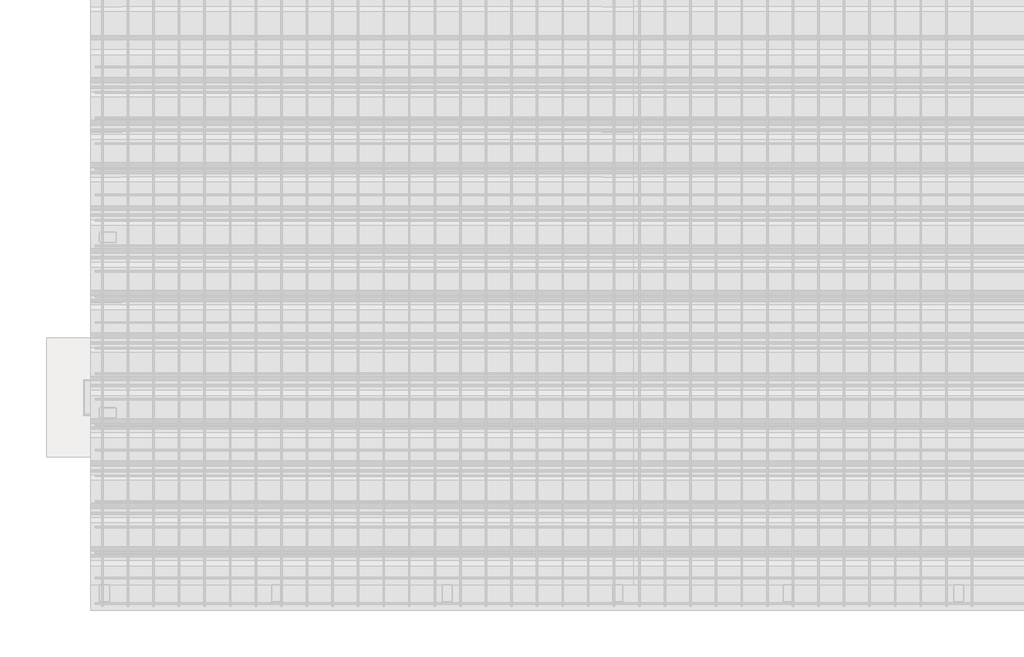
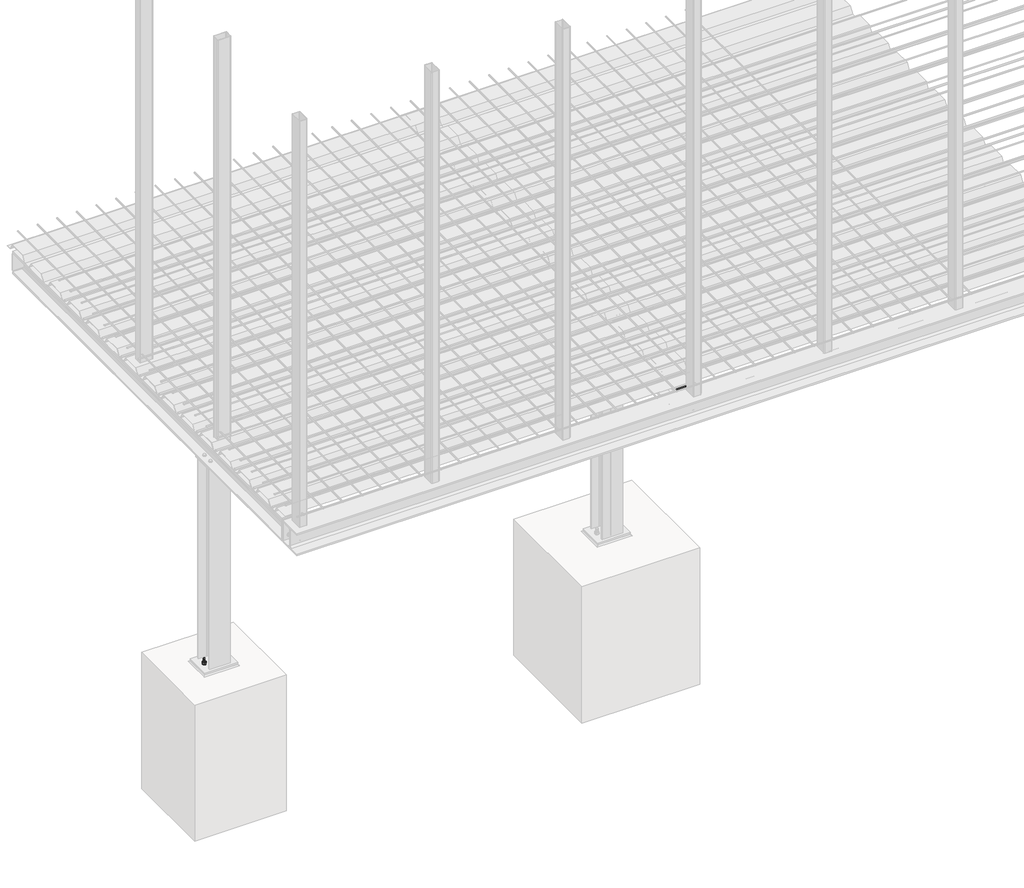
# One storey, part 7 of 36: 12 proxies.
"""IFC4 building model written with IfcOpenShell, lengths in millimetres."""

from ifc_helpers import new_model, si_unit, point, frame, frame_2d, origin, place, context, project, spatial, polyline, circle_curve, trimmed, segment, composite_curve, outline, extrude, element, save

model = new_model("IFC4")

# Units and contexts
model_context = context("Model", 3, world=origin())
ifc_project = project(units=[si_unit("LENGTHUNIT", "METRE", prefix="MILLI")], contexts=[model_context])

# Site, building, storey
site = spatial("IfcSite", under=ifc_project)
building = spatial("IfcBuilding", under=site)
storey = spatial("IfcBuildingStorey", under=building, Name="Základy", Elevation=-1200.0)

# Proxies
placement = place(None, origin())
element("IfcBuildingElementProxy", 1, Name="PLECH", ObjectType="PLECH", at=placement, inside=storey, context=model_context, shape_type="SweptSolid", body=[
    extrude(outline(polyline([(2940.0, 1200.0), (2940.0, 1320.0), (2950.0, 1320.0), (2950.0, 1200.0), (2940.0, 1200.0)])), frame((0.0, 0.0, -299.0), z_axis=(0.0, 0.0, 1.0), x_axis=(1.0, 0.0, 0.0)), (0.0, 0.0, 1.0), 98.0),
])
element("IfcBuildingElementProxy", 2, Name="PLECH", ObjectType="PLECH", at=placement, inside=storey, context=model_context, shape_type="SweptSolid", body=[
    extrude(outline(polyline([(3150.0, 1200.0), (3150.0, 1320.0), (3160.0, 1320.0), (3160.0, 1200.0), (3150.0, 1200.0)])), frame((0.0, 0.0, -299.0), z_axis=(0.0, 0.0, 1.0), x_axis=(1.0, 0.0, 0.0)), (0.0, 0.0, 1.0), 98.0),
])
element("IfcBuildingElementProxy", 3, Name="PLECH", ObjectType="PLECH", at=placement, inside=storey, context=model_context, shape_type="SweptSolid", body=[
    extrude(outline(polyline([(2950.0, 1200.0), (2950.0, 1320.0), (2960.0, 1320.0), (2960.0, 1200.0), (2950.0, 1200.0)])), frame((0.0, 0.0, -332.0), z_axis=(0.0, 0.0, 1.0), x_axis=(1.0, 0.0, 0.0)), (0.0, 0.0, 1.0), 164.0),
])
element("IfcBuildingElementProxy", 4, Name="PLECH", ObjectType="PLECH", at=placement, inside=storey, context=model_context, shape_type="SweptSolid", body=[
    extrude(outline(composite_curve([segment(polyline([(-174.0, 2960.0), (-326.0, 2960.0), (-326.0, 3020.5)]), True, "CONTINUOUS"), segment(trimmed(circle_curve(frame_2d((-326.0, 3045.5)), 25.0), [point((-326.0, 3020.5))], [point((-301.0, 3045.5))], True, "CARTESIAN"), True, "CONTINUOUS"), segment(polyline([(-301.0, 3045.5), (-199.0, 3045.5)]), True, "CONTINUOUS"), segment(trimmed(circle_curve(frame_2d((-174.0, 3045.5)), 25.0), [point((-199.0, 3045.5))], [point((-174.0, 3020.5))], True, "CARTESIAN"), True, "CONTINUOUS"), segment(polyline([(-174.0, 3020.5), (-174.0, 2960.0)]), True, "CONTINUOUS")], self_intersect=False)), frame((0.0, 1256.0, 0.0), z_axis=(0.0, 1.0, 0.0), x_axis=(0.0, 0.0, 1.0)), (0.0, 0.0, 1.0), 8.0),
])
element("IfcBuildingElementProxy", 5, Name="PLECH", ObjectType="PLECH", at=placement, inside=storey, context=model_context, shape_type="SweptSolid", body=[
    extrude(outline(polyline([(2960.0, 210.0), (3140.0, 210.0), (3140.0, 200.0), (2960.0, 200.0), (2960.0, 210.0)])), frame((0.0, 0.0, -332.0), z_axis=(0.0, 0.0, 1.0), x_axis=(1.0, 0.0, 0.0)), (0.0, 0.0, 1.0), 164.0),
])
element("IfcBuildingElementProxy", 6, Name="PLECH", ObjectType="PLECH", at=placement, inside=storey, context=model_context, shape_type="SweptSolid", body=[
    extrude(outline(polyline([(3140.0, 1200.0), (3140.0, 1320.0), (3150.0, 1320.0), (3150.0, 1200.0), (3140.0, 1200.0)])), frame((0.0, 0.0, -332.0), z_axis=(0.0, 0.0, 1.0), x_axis=(1.0, 0.0, 0.0)), (0.0, 0.0, 1.0), 164.0),
])
element("IfcBuildingElementProxy", 7, Name="PLECH", ObjectType="PLECH", at=placement, inside=storey, context=model_context, shape_type="SweptSolid", body=[
    extrude(outline(composite_curve([segment(polyline([(-174.0, 3140.0), (-174.0, 3079.5)]), True, "CONTINUOUS"), segment(trimmed(circle_curve(frame_2d((-174.0, 3054.5)), 25.0), [point((-174.0, 3079.5))], [point((-199.0, 3054.5))], True, "CARTESIAN"), True, "CONTINUOUS"), segment(polyline([(-199.0, 3054.5), (-301.0, 3054.5)]), True, "CONTINUOUS"), segment(trimmed(circle_curve(frame_2d((-326.0, 3054.5)), 25.0), [point((-301.0, 3054.5))], [point((-326.0, 3079.5))], True, "CARTESIAN"), True, "CONTINUOUS"), segment(polyline([(-326.0, 3079.5), (-326.0, 3140.0), (-174.0, 3140.0)]), True, "CONTINUOUS")], self_intersect=False)), frame((0.0, 1256.0, 0.0), z_axis=(0.0, 1.0, 0.0), x_axis=(0.0, 0.0, 1.0)), (0.0, 0.0, 1.0), 8.0),
])
element("IfcBuildingElementProxy", 8, Name="PLECH", ObjectType="PLECH", at=placement, inside=storey, context=model_context, shape_type="SweptSolid", body=[
    extrude(outline(composite_curve([segment(polyline([(190.0, -174.0), (190.0, -326.0), (124.25, -326.0)]), True, "CONTINUOUS"), segment(trimmed(circle_curve(frame_2d((104.25, -326.0)), 20.0), [point((124.25, -326.0))], [point((104.25, -306.0))], True, "CARTESIAN"), True, "CONTINUOUS"), segment(polyline([(104.25, -306.0), (104.25, -194.0)]), True, "CONTINUOUS"), segment(trimmed(circle_curve(frame_2d((104.25, -174.0)), 20.0), [point((104.25, -194.0))], [point((124.25, -174.0))], True, "CARTESIAN"), True, "CONTINUOUS"), segment(polyline([(124.25, -174.0), (190.0, -174.0)]), True, "CONTINUOUS")], self_intersect=False)), frame((3046.0, 0.0, 0.0), z_axis=(1.0, 0.0, 0.0), x_axis=(0.0, 1.0, 0.0)), (0.0, 0.0, 1.0), 8.0),
])
element("IfcBuildingElementProxy", 9, Name="PLECH", ObjectType="PLECH", at=placement, inside=storey, context=model_context, shape_type="SweptSolid", body=[
    extrude(outline(polyline([(2960.0, 200.0), (3140.0, 200.0), (3140.0, 190.0), (2960.0, 190.0), (2960.0, 200.0)])), frame((0.0, 0.0, -332.0), z_axis=(0.0, 0.0, 1.0), x_axis=(1.0, 0.0, 0.0)), (0.0, 0.0, 1.0), 164.0),
])
element("IfcBuildingElementProxy", 10, Name="Bolt assembly", ObjectType="Bolt assembly", at=placement, inside=storey, context=model_context, shape_type="SweptSolid", body=[
    extrude(outline(composite_curve([segment(trimmed(circle_curve(frame_2d((1230.0, -225.0)), 6.5), [point((1230.0, -231.5))], [point((1230.0, -218.5))], False, "CARTESIAN"), True, "CONTINUOUS"), segment(trimmed(circle_curve(frame_2d((1230.0, -225.0)), 6.5), [point((1230.0, -218.5))], [point((1230.0, -231.5))], False, "CARTESIAN"), True, "CONTINUOUS")], self_intersect=False)), frame((2949.9, 0.0, 0.0), z_axis=(1.0, 0.0, 0.0), x_axis=(0.0, 1.0, 0.0)), (0.0, 0.0, 1.0), 10.0),
    extrude(outline(polyline([(1230.0, -235.3923048), (1221.0, -230.1961524), (1221.0, -219.8038476), (1230.0, -214.6076952), (1239.0, -219.8038476), (1239.0, -230.1961524), (1230.0, -235.3923048)])), frame((2962.5, 0.0, 0.0), z_axis=(1.0, 0.0, 0.0), x_axis=(0.0, 1.0, 0.0)), (0.0, 0.0, 1.0), 7.5),
    extrude(outline(composite_curve([segment(trimmed(circle_curve(frame_2d((1230.0, -225.0)), 6.0), [point((1230.0, -231.0))], [point((1230.0, -219.0))], False, "CARTESIAN"), True, "CONTINUOUS"), segment(trimmed(circle_curve(frame_2d((1230.0, -225.0)), 6.0), [point((1230.0, -219.0))], [point((1230.0, -231.0))], False, "CARTESIAN"), True, "CONTINUOUS")], self_intersect=False)), frame((2922.5, 0.0, 0.0), z_axis=(1.0, 0.0, 0.0), x_axis=(0.0, 1.0, 0.0)), (0.0, 0.0, 1.0), 40.0),
    extrude(outline(composite_curve([segment(trimmed(circle_curve(frame_2d((1230.0, -225.0)), 12.0), [point((1230.0, -237.0))], [point((1230.0, -213.0))], False, "CARTESIAN"), True, "CONTINUOUS"), segment(trimmed(circle_curve(frame_2d((1230.0, -225.0)), 12.0), [point((1230.0, -213.0))], [point((1230.0, -237.0))], False, "CARTESIAN"), True, "CONTINUOUS")], self_intersect=False)), frame((2960.0, 0.0, 0.0), z_axis=(1.0, 0.0, 0.0), x_axis=(0.0, 1.0, 0.0)), (0.0, 0.0, 1.0), 2.5),
    extrude(outline(composite_curve([segment(trimmed(circle_curve(frame_2d((1230.0, -225.0)), 12.0), [point((1230.0, -237.0))], [point((1230.0, -213.0))], False, "CARTESIAN"), True, "CONTINUOUS"), segment(trimmed(circle_curve(frame_2d((1230.0, -225.0)), 12.0), [point((1230.0, -213.0))], [point((1230.0, -237.0))], False, "CARTESIAN"), True, "CONTINUOUS")], self_intersect=False)), frame((2937.5, 0.0, 0.0), z_axis=(1.0, 0.0, 0.0), x_axis=(0.0, 1.0, 0.0)), (0.0, 0.0, 1.0), 2.5),
    extrude(outline(polyline([(1230.0, -235.9696551), (1220.5, -230.4848276), (1220.5, -219.5151724), (1230.0, -214.0303449), (1239.5, -219.5151724), (1239.5, -230.4848276), (1230.0, -235.9696551)])), frame((2927.5, 0.0, 0.0), z_axis=(1.0, 0.0, 0.0), x_axis=(0.0, 1.0, 0.0)), (0.0, 0.0, 1.0), 10.0),
    extrude(outline(composite_curve([segment(trimmed(circle_curve(frame_2d((1230.0, -225.0)), 6.5), [point((1230.0, -231.5))], [point((1230.0, -218.5))], False, "CARTESIAN"), True, "CONTINUOUS"), segment(trimmed(circle_curve(frame_2d((1230.0, -225.0)), 6.5), [point((1230.0, -218.5))], [point((1230.0, -231.5))], False, "CARTESIAN"), True, "CONTINUOUS")], self_intersect=False)), frame((2940.0, 0.0, 0.0), z_axis=(1.0, 0.0, 0.0), x_axis=(0.0, 1.0, 0.0)), (0.0, 0.0, 1.0), 10.1),
    extrude(outline(composite_curve([segment(trimmed(circle_curve(frame_2d((1230.0, -275.0)), 6.5), [point((1230.0, -281.5))], [point((1230.0, -268.5))], False, "CARTESIAN"), True, "CONTINUOUS"), segment(trimmed(circle_curve(frame_2d((1230.0, -275.0)), 6.5), [point((1230.0, -268.5))], [point((1230.0, -281.5))], False, "CARTESIAN"), True, "CONTINUOUS")], self_intersect=False)), frame((2949.9, 0.0, 0.0), z_axis=(1.0, 0.0, 0.0), x_axis=(0.0, 1.0, 0.0)), (0.0, 0.0, 1.0), 10.0),
    extrude(outline(polyline([(1230.0, -285.3923048), (1221.0, -280.1961524), (1221.0, -269.8038476), (1230.0, -264.6076952), (1239.0, -269.8038476), (1239.0, -280.1961524), (1230.0, -285.3923048)])), frame((2962.5, 0.0, 0.0), z_axis=(1.0, 0.0, 0.0), x_axis=(0.0, 1.0, 0.0)), (0.0, 0.0, 1.0), 7.5),
    extrude(outline(composite_curve([segment(trimmed(circle_curve(frame_2d((1230.0, -275.0)), 6.0), [point((1230.0, -281.0))], [point((1230.0, -269.0))], False, "CARTESIAN"), True, "CONTINUOUS"), segment(trimmed(circle_curve(frame_2d((1230.0, -275.0)), 6.0), [point((1230.0, -269.0))], [point((1230.0, -281.0))], False, "CARTESIAN"), True, "CONTINUOUS")], self_intersect=False)), frame((2922.5, 0.0, 0.0), z_axis=(1.0, 0.0, 0.0), x_axis=(0.0, 1.0, 0.0)), (0.0, 0.0, 1.0), 40.0),
    extrude(outline(composite_curve([segment(trimmed(circle_curve(frame_2d((1230.0, -275.0)), 12.0), [point((1230.0, -287.0))], [point((1230.0, -263.0))], False, "CARTESIAN"), True, "CONTINUOUS"), segment(trimmed(circle_curve(frame_2d((1230.0, -275.0)), 12.0), [point((1230.0, -263.0))], [point((1230.0, -287.0))], False, "CARTESIAN"), True, "CONTINUOUS")], self_intersect=False)), frame((2960.0, 0.0, 0.0), z_axis=(1.0, 0.0, 0.0), x_axis=(0.0, 1.0, 0.0)), (0.0, 0.0, 1.0), 2.5),
    extrude(outline(composite_curve([segment(trimmed(circle_curve(frame_2d((1230.0, -275.0)), 12.0), [point((1230.0, -287.0))], [point((1230.0, -263.0))], False, "CARTESIAN"), True, "CONTINUOUS"), segment(trimmed(circle_curve(frame_2d((1230.0, -275.0)), 12.0), [point((1230.0, -263.0))], [point((1230.0, -287.0))], False, "CARTESIAN"), True, "CONTINUOUS")], self_intersect=False)), frame((2937.5, 0.0, 0.0), z_axis=(1.0, 0.0, 0.0), x_axis=(0.0, 1.0, 0.0)), (0.0, 0.0, 1.0), 2.5),
    extrude(outline(polyline([(1230.0, -285.9696551), (1220.5, -280.4848276), (1220.5, -269.5151724), (1230.0, -264.0303449), (1239.5, -269.5151724), (1239.5, -280.4848276), (1230.0, -285.9696551)])), frame((2927.5, 0.0, 0.0), z_axis=(1.0, 0.0, 0.0), x_axis=(0.0, 1.0, 0.0)), (0.0, 0.0, 1.0), 10.0),
    extrude(outline(composite_curve([segment(trimmed(circle_curve(frame_2d((1230.0, -275.0)), 6.5), [point((1230.0, -281.5))], [point((1230.0, -268.5))], False, "CARTESIAN"), True, "CONTINUOUS"), segment(trimmed(circle_curve(frame_2d((1230.0, -275.0)), 6.5), [point((1230.0, -268.5))], [point((1230.0, -281.5))], False, "CARTESIAN"), True, "CONTINUOUS")], self_intersect=False)), frame((2940.0, 0.0, 0.0), z_axis=(1.0, 0.0, 0.0), x_axis=(0.0, 1.0, 0.0)), (0.0, 0.0, 1.0), 10.1),
    extrude(outline(composite_curve([segment(trimmed(circle_curve(frame_2d((1290.0, -225.0)), 6.5), [point((1290.0, -231.5))], [point((1290.0, -218.5))], False, "CARTESIAN"), True, "CONTINUOUS"), segment(trimmed(circle_curve(frame_2d((1290.0, -225.0)), 6.5), [point((1290.0, -218.5))], [point((1290.0, -231.5))], False, "CARTESIAN"), True, "CONTINUOUS")], self_intersect=False)), frame((2949.9, 0.0, 0.0), z_axis=(1.0, 0.0, 0.0), x_axis=(0.0, 1.0, 0.0)), (0.0, 0.0, 1.0), 10.0),
    extrude(outline(polyline([(1290.0, -235.3923048), (1281.0, -230.1961524), (1281.0, -219.8038476), (1290.0, -214.6076952), (1299.0, -219.8038476), (1299.0, -230.1961524), (1290.0, -235.3923048)])), frame((2962.5, 0.0, 0.0), z_axis=(1.0, 0.0, 0.0), x_axis=(0.0, 1.0, 0.0)), (0.0, 0.0, 1.0), 7.5),
    extrude(outline(composite_curve([segment(trimmed(circle_curve(frame_2d((1290.0, -225.0)), 6.0), [point((1290.0, -231.0))], [point((1290.0, -219.0))], False, "CARTESIAN"), True, "CONTINUOUS"), segment(trimmed(circle_curve(frame_2d((1290.0, -225.0)), 6.0), [point((1290.0, -219.0))], [point((1290.0, -231.0))], False, "CARTESIAN"), True, "CONTINUOUS")], self_intersect=False)), frame((2922.5, 0.0, 0.0), z_axis=(1.0, 0.0, 0.0), x_axis=(0.0, 1.0, 0.0)), (0.0, 0.0, 1.0), 40.0),
    extrude(outline(composite_curve([segment(trimmed(circle_curve(frame_2d((1290.0, -225.0)), 12.0), [point((1290.0, -237.0))], [point((1290.0, -213.0))], False, "CARTESIAN"), True, "CONTINUOUS"), segment(trimmed(circle_curve(frame_2d((1290.0, -225.0)), 12.0), [point((1290.0, -213.0))], [point((1290.0, -237.0))], False, "CARTESIAN"), True, "CONTINUOUS")], self_intersect=False)), frame((2960.0, 0.0, 0.0), z_axis=(1.0, 0.0, 0.0), x_axis=(0.0, 1.0, 0.0)), (0.0, 0.0, 1.0), 2.5),
    extrude(outline(composite_curve([segment(trimmed(circle_curve(frame_2d((1290.0, -225.0)), 12.0), [point((1290.0, -237.0))], [point((1290.0, -213.0))], False, "CARTESIAN"), True, "CONTINUOUS"), segment(trimmed(circle_curve(frame_2d((1290.0, -225.0)), 12.0), [point((1290.0, -213.0))], [point((1290.0, -237.0))], False, "CARTESIAN"), True, "CONTINUOUS")], self_intersect=False)), frame((2937.5, 0.0, 0.0), z_axis=(1.0, 0.0, 0.0), x_axis=(0.0, 1.0, 0.0)), (0.0, 0.0, 1.0), 2.5),
    extrude(outline(polyline([(1290.0, -235.9696551), (1280.5, -230.4848276), (1280.5, -219.5151724), (1290.0, -214.0303449), (1299.5, -219.5151724), (1299.5, -230.4848276), (1290.0, -235.9696551)])), frame((2927.5, 0.0, 0.0), z_axis=(1.0, 0.0, 0.0), x_axis=(0.0, 1.0, 0.0)), (0.0, 0.0, 1.0), 10.0),
    extrude(outline(composite_curve([segment(trimmed(circle_curve(frame_2d((1290.0, -225.0)), 6.5), [point((1290.0, -231.5))], [point((1290.0, -218.5))], False, "CARTESIAN"), True, "CONTINUOUS"), segment(trimmed(circle_curve(frame_2d((1290.0, -225.0)), 6.5), [point((1290.0, -218.5))], [point((1290.0, -231.5))], False, "CARTESIAN"), True, "CONTINUOUS")], self_intersect=False)), frame((2940.0, 0.0, 0.0), z_axis=(1.0, 0.0, 0.0), x_axis=(0.0, 1.0, 0.0)), (0.0, 0.0, 1.0), 10.1),
    extrude(outline(composite_curve([segment(trimmed(circle_curve(frame_2d((1290.0, -275.0)), 6.5), [point((1290.0, -281.5))], [point((1290.0, -268.5))], False, "CARTESIAN"), True, "CONTINUOUS"), segment(trimmed(circle_curve(frame_2d((1290.0, -275.0)), 6.5), [point((1290.0, -268.5))], [point((1290.0, -281.5))], False, "CARTESIAN"), True, "CONTINUOUS")], self_intersect=False)), frame((2949.9, 0.0, 0.0), z_axis=(1.0, 0.0, 0.0), x_axis=(0.0, 1.0, 0.0)), (0.0, 0.0, 1.0), 10.0),
    extrude(outline(polyline([(1290.0, -285.3923048), (1281.0, -280.1961524), (1281.0, -269.8038476), (1290.0, -264.6076952), (1299.0, -269.8038476), (1299.0, -280.1961524), (1290.0, -285.3923048)])), frame((2962.5, 0.0, 0.0), z_axis=(1.0, 0.0, 0.0), x_axis=(0.0, 1.0, 0.0)), (0.0, 0.0, 1.0), 7.5),
    extrude(outline(composite_curve([segment(trimmed(circle_curve(frame_2d((1290.0, -275.0)), 6.0), [point((1290.0, -281.0))], [point((1290.0, -269.0))], False, "CARTESIAN"), True, "CONTINUOUS"), segment(trimmed(circle_curve(frame_2d((1290.0, -275.0)), 6.0), [point((1290.0, -269.0))], [point((1290.0, -281.0))], False, "CARTESIAN"), True, "CONTINUOUS")], self_intersect=False)), frame((2922.5, 0.0, 0.0), z_axis=(1.0, 0.0, 0.0), x_axis=(0.0, 1.0, 0.0)), (0.0, 0.0, 1.0), 40.0),
    extrude(outline(composite_curve([segment(trimmed(circle_curve(frame_2d((1290.0, -275.0)), 12.0), [point((1290.0, -287.0))], [point((1290.0, -263.0))], False, "CARTESIAN"), True, "CONTINUOUS"), segment(trimmed(circle_curve(frame_2d((1290.0, -275.0)), 12.0), [point((1290.0, -263.0))], [point((1290.0, -287.0))], False, "CARTESIAN"), True, "CONTINUOUS")], self_intersect=False)), frame((2960.0, 0.0, 0.0), z_axis=(1.0, 0.0, 0.0), x_axis=(0.0, 1.0, 0.0)), (0.0, 0.0, 1.0), 2.5),
    extrude(outline(composite_curve([segment(trimmed(circle_curve(frame_2d((1290.0, -275.0)), 12.0), [point((1290.0, -287.0))], [point((1290.0, -263.0))], False, "CARTESIAN"), True, "CONTINUOUS"), segment(trimmed(circle_curve(frame_2d((1290.0, -275.0)), 12.0), [point((1290.0, -263.0))], [point((1290.0, -287.0))], False, "CARTESIAN"), True, "CONTINUOUS")], self_intersect=False)), frame((2937.5, 0.0, 0.0), z_axis=(1.0, 0.0, 0.0), x_axis=(0.0, 1.0, 0.0)), (0.0, 0.0, 1.0), 2.5),
    extrude(outline(polyline([(1290.0, -285.9696551), (1280.5, -280.4848276), (1280.5, -269.5151724), (1290.0, -264.0303449), (1299.5, -269.5151724), (1299.5, -280.4848276), (1290.0, -285.9696551)])), frame((2927.5, 0.0, 0.0), z_axis=(1.0, 0.0, 0.0), x_axis=(0.0, 1.0, 0.0)), (0.0, 0.0, 1.0), 10.0),
    extrude(outline(composite_curve([segment(trimmed(circle_curve(frame_2d((1290.0, -275.0)), 6.5), [point((1290.0, -281.5))], [point((1290.0, -268.5))], False, "CARTESIAN"), True, "CONTINUOUS"), segment(trimmed(circle_curve(frame_2d((1290.0, -275.0)), 6.5), [point((1290.0, -268.5))], [point((1290.0, -281.5))], False, "CARTESIAN"), True, "CONTINUOUS")], self_intersect=False)), frame((2940.0, 0.0, 0.0), z_axis=(1.0, 0.0, 0.0), x_axis=(0.0, 1.0, 0.0)), (0.0, 0.0, 1.0), 10.1),
])
element("IfcBuildingElementProxy", 11, Name="Bolt assembly", ObjectType="Bolt assembly", at=placement, inside=storey, context=model_context, shape_type="SweptSolid", body=[
    extrude(outline(composite_curve([segment(trimmed(circle_curve(frame_2d((-290.0, 3005.0)), 9.0), [point((-290.0, 3014.0))], [point((-290.0, 2996.0))], False, "CARTESIAN"), True, "CONTINUOUS"), segment(trimmed(circle_curve(frame_2d((-290.0, 3005.0)), 9.0), [point((-290.0, 2996.0))], [point((-290.0, 3014.0))], False, "CARTESIAN"), True, "CONTINUOUS")], self_intersect=False)), frame((0.0, 190.1, 0.0), z_axis=(0.0, 1.0, 0.0), x_axis=(0.0, 0.0, 1.0)), (0.0, 0.0, 1.0), 10.0),
    extrude(outline(polyline([(-290.0, 3018.8564065), (-278.0, 3011.9282032), (-278.0, 2998.0717968), (-290.0, 2991.1435935), (-302.0, 2998.0717968), (-302.0, 3011.9282032), (-290.0, 3018.8564065)])), frame((0.0, 177.0, 0.0), z_axis=(0.0, 1.0, 0.0), x_axis=(0.0, 0.0, 1.0)), (0.0, 0.0, 1.0), 10.0),
    extrude(outline(composite_curve([segment(trimmed(circle_curve(frame_2d((-290.0, 3005.0)), 8.0), [point((-290.0, 3013.0))], [point((-290.0, 2997.0))], False, "CARTESIAN"), True, "CONTINUOUS"), segment(trimmed(circle_curve(frame_2d((-290.0, 3005.0)), 8.0), [point((-290.0, 2997.0))], [point((-290.0, 3013.0))], False, "CARTESIAN"), True, "CONTINUOUS")], self_intersect=False)), frame((0.0, 187.0, 0.0), z_axis=(0.0, 1.0, 0.0), x_axis=(0.0, 0.0, 1.0)), (0.0, 0.0, 1.0), 50.0),
    extrude(outline(composite_curve([segment(trimmed(circle_curve(frame_2d((-290.0, 3005.0)), 15.0), [point((-290.0, 3020.0))], [point((-290.0, 2990.0))], False, "CARTESIAN"), True, "CONTINUOUS"), segment(trimmed(circle_curve(frame_2d((-290.0, 3005.0)), 15.0), [point((-290.0, 2990.0))], [point((-290.0, 3020.0))], False, "CARTESIAN"), True, "CONTINUOUS")], self_intersect=False)), frame((0.0, 187.0, 0.0), z_axis=(0.0, 1.0, 0.0), x_axis=(0.0, 0.0, 1.0)), (0.0, 0.0, 1.0), 3.0),
    extrude(outline(composite_curve([segment(trimmed(circle_curve(frame_2d((-290.0, 3005.0)), 15.0), [point((-290.0, 3020.0))], [point((-290.0, 2990.0))], False, "CARTESIAN"), True, "CONTINUOUS"), segment(trimmed(circle_curve(frame_2d((-290.0, 3005.0)), 15.0), [point((-290.0, 2990.0))], [point((-290.0, 3020.0))], False, "CARTESIAN"), True, "CONTINUOUS")], self_intersect=False)), frame((0.0, 210.0, 0.0), z_axis=(0.0, 1.0, 0.0), x_axis=(0.0, 0.0, 1.0)), (0.0, 0.0, 1.0), 3.0),
    extrude(outline(polyline([(-290.0, 3020.4441197), (-276.625, 3012.7220599), (-276.625, 2997.2779401), (-290.0, 2989.5558803), (-303.375, 2997.2779401), (-303.375, 3012.7220599), (-290.0, 3020.4441197)])), frame((0.0, 213.0, 0.0), z_axis=(0.0, 1.0, 0.0), x_axis=(0.0, 0.0, 1.0)), (0.0, 0.0, 1.0), 13.0),
    extrude(outline(composite_curve([segment(trimmed(circle_curve(frame_2d((-290.0, 3005.0)), 9.0), [point((-290.0, 3014.0))], [point((-290.0, 2996.0))], False, "CARTESIAN"), True, "CONTINUOUS"), segment(trimmed(circle_curve(frame_2d((-290.0, 3005.0)), 9.0), [point((-290.0, 2996.0))], [point((-290.0, 3014.0))], False, "CARTESIAN"), True, "CONTINUOUS")], self_intersect=False)), frame((0.0, 199.9, 0.0), z_axis=(0.0, 1.0, 0.0), x_axis=(0.0, 0.0, 1.0)), (0.0, 0.0, 1.0), 10.1),
    extrude(outline(composite_curve([segment(trimmed(circle_curve(frame_2d((-290.0, 3095.0)), 9.0), [point((-290.0, 3104.0))], [point((-290.0, 3086.0))], False, "CARTESIAN"), True, "CONTINUOUS"), segment(trimmed(circle_curve(frame_2d((-290.0, 3095.0)), 9.0), [point((-290.0, 3086.0))], [point((-290.0, 3104.0))], False, "CARTESIAN"), True, "CONTINUOUS")], self_intersect=False)), frame((0.0, 190.1, 0.0), z_axis=(0.0, 1.0, 0.0), x_axis=(0.0, 0.0, 1.0)), (0.0, 0.0, 1.0), 10.0),
    extrude(outline(polyline([(-290.0, 3108.8564065), (-278.0, 3101.9282032), (-278.0, 3088.0717968), (-290.0, 3081.1435935), (-302.0, 3088.0717968), (-302.0, 3101.9282032), (-290.0, 3108.8564065)])), frame((0.0, 177.0, 0.0), z_axis=(0.0, 1.0, 0.0), x_axis=(0.0, 0.0, 1.0)), (0.0, 0.0, 1.0), 10.0),
    extrude(outline(composite_curve([segment(trimmed(circle_curve(frame_2d((-290.0, 3095.0)), 8.0), [point((-290.0, 3103.0))], [point((-290.0, 3087.0))], False, "CARTESIAN"), True, "CONTINUOUS"), segment(trimmed(circle_curve(frame_2d((-290.0, 3095.0)), 8.0), [point((-290.0, 3087.0))], [point((-290.0, 3103.0))], False, "CARTESIAN"), True, "CONTINUOUS")], self_intersect=False)), frame((0.0, 187.0, 0.0), z_axis=(0.0, 1.0, 0.0), x_axis=(0.0, 0.0, 1.0)), (0.0, 0.0, 1.0), 50.0),
    extrude(outline(composite_curve([segment(trimmed(circle_curve(frame_2d((-290.0, 3095.0)), 15.0), [point((-290.0, 3110.0))], [point((-290.0, 3080.0))], False, "CARTESIAN"), True, "CONTINUOUS"), segment(trimmed(circle_curve(frame_2d((-290.0, 3095.0)), 15.0), [point((-290.0, 3080.0))], [point((-290.0, 3110.0))], False, "CARTESIAN"), True, "CONTINUOUS")], self_intersect=False)), frame((0.0, 187.0, 0.0), z_axis=(0.0, 1.0, 0.0), x_axis=(0.0, 0.0, 1.0)), (0.0, 0.0, 1.0), 3.0),
    extrude(outline(composite_curve([segment(trimmed(circle_curve(frame_2d((-290.0, 3095.0)), 15.0), [point((-290.0, 3110.0))], [point((-290.0, 3080.0))], False, "CARTESIAN"), True, "CONTINUOUS"), segment(trimmed(circle_curve(frame_2d((-290.0, 3095.0)), 15.0), [point((-290.0, 3080.0))], [point((-290.0, 3110.0))], False, "CARTESIAN"), True, "CONTINUOUS")], self_intersect=False)), frame((0.0, 210.0, 0.0), z_axis=(0.0, 1.0, 0.0), x_axis=(0.0, 0.0, 1.0)), (0.0, 0.0, 1.0), 3.0),
    extrude(outline(polyline([(-290.0, 3110.4441197), (-276.625, 3102.7220599), (-276.625, 3087.2779401), (-290.0, 3079.5558803), (-303.375, 3087.2779401), (-303.375, 3102.7220599), (-290.0, 3110.4441197)])), frame((0.0, 213.0, 0.0), z_axis=(0.0, 1.0, 0.0), x_axis=(0.0, 0.0, 1.0)), (0.0, 0.0, 1.0), 13.0),
    extrude(outline(composite_curve([segment(trimmed(circle_curve(frame_2d((-290.0, 3095.0)), 9.0), [point((-290.0, 3104.0))], [point((-290.0, 3086.0))], False, "CARTESIAN"), True, "CONTINUOUS"), segment(trimmed(circle_curve(frame_2d((-290.0, 3095.0)), 9.0), [point((-290.0, 3086.0))], [point((-290.0, 3104.0))], False, "CARTESIAN"), True, "CONTINUOUS")], self_intersect=False)), frame((0.0, 199.9, 0.0), z_axis=(0.0, 1.0, 0.0), x_axis=(0.0, 0.0, 1.0)), (0.0, 0.0, 1.0), 10.1),
    extrude(outline(composite_curve([segment(trimmed(circle_curve(frame_2d((-210.0, 3005.0)), 9.0), [point((-210.0, 3014.0))], [point((-210.0, 2996.0))], False, "CARTESIAN"), True, "CONTINUOUS"), segment(trimmed(circle_curve(frame_2d((-210.0, 3005.0)), 9.0), [point((-210.0, 2996.0))], [point((-210.0, 3014.0))], False, "CARTESIAN"), True, "CONTINUOUS")], self_intersect=False)), frame((0.0, 190.1, 0.0), z_axis=(0.0, 1.0, 0.0), x_axis=(0.0, 0.0, 1.0)), (0.0, 0.0, 1.0), 10.0),
    extrude(outline(polyline([(-210.0, 3018.8564065), (-198.0, 3011.9282032), (-198.0, 2998.0717968), (-210.0, 2991.1435935), (-222.0, 2998.0717968), (-222.0, 3011.9282032), (-210.0, 3018.8564065)])), frame((0.0, 177.0, 0.0), z_axis=(0.0, 1.0, 0.0), x_axis=(0.0, 0.0, 1.0)), (0.0, 0.0, 1.0), 10.0),
    extrude(outline(composite_curve([segment(trimmed(circle_curve(frame_2d((-210.0, 3005.0)), 8.0), [point((-210.0, 3013.0))], [point((-210.0, 2997.0))], False, "CARTESIAN"), True, "CONTINUOUS"), segment(trimmed(circle_curve(frame_2d((-210.0, 3005.0)), 8.0), [point((-210.0, 2997.0))], [point((-210.0, 3013.0))], False, "CARTESIAN"), True, "CONTINUOUS")], self_intersect=False)), frame((0.0, 187.0, 0.0), z_axis=(0.0, 1.0, 0.0), x_axis=(0.0, 0.0, 1.0)), (0.0, 0.0, 1.0), 50.0),
    extrude(outline(composite_curve([segment(trimmed(circle_curve(frame_2d((-210.0, 3005.0)), 15.0), [point((-210.0, 3020.0))], [point((-210.0, 2990.0))], False, "CARTESIAN"), True, "CONTINUOUS"), segment(trimmed(circle_curve(frame_2d((-210.0, 3005.0)), 15.0), [point((-210.0, 2990.0))], [point((-210.0, 3020.0))], False, "CARTESIAN"), True, "CONTINUOUS")], self_intersect=False)), frame((0.0, 187.0, 0.0), z_axis=(0.0, 1.0, 0.0), x_axis=(0.0, 0.0, 1.0)), (0.0, 0.0, 1.0), 3.0),
    extrude(outline(composite_curve([segment(trimmed(circle_curve(frame_2d((-210.0, 3005.0)), 15.0), [point((-210.0, 3020.0))], [point((-210.0, 2990.0))], False, "CARTESIAN"), True, "CONTINUOUS"), segment(trimmed(circle_curve(frame_2d((-210.0, 3005.0)), 15.0), [point((-210.0, 2990.0))], [point((-210.0, 3020.0))], False, "CARTESIAN"), True, "CONTINUOUS")], self_intersect=False)), frame((0.0, 210.0, 0.0), z_axis=(0.0, 1.0, 0.0), x_axis=(0.0, 0.0, 1.0)), (0.0, 0.0, 1.0), 3.0),
    extrude(outline(polyline([(-210.0, 3020.4441197), (-196.625, 3012.7220599), (-196.625, 2997.2779401), (-210.0, 2989.5558803), (-223.375, 2997.2779401), (-223.375, 3012.7220599), (-210.0, 3020.4441197)])), frame((0.0, 213.0, 0.0), z_axis=(0.0, 1.0, 0.0), x_axis=(0.0, 0.0, 1.0)), (0.0, 0.0, 1.0), 13.0),
    extrude(outline(composite_curve([segment(trimmed(circle_curve(frame_2d((-210.0, 3005.0)), 9.0), [point((-210.0, 3014.0))], [point((-210.0, 2996.0))], False, "CARTESIAN"), True, "CONTINUOUS"), segment(trimmed(circle_curve(frame_2d((-210.0, 3005.0)), 9.0), [point((-210.0, 2996.0))], [point((-210.0, 3014.0))], False, "CARTESIAN"), True, "CONTINUOUS")], self_intersect=False)), frame((0.0, 199.9, 0.0), z_axis=(0.0, 1.0, 0.0), x_axis=(0.0, 0.0, 1.0)), (0.0, 0.0, 1.0), 10.1),
    extrude(outline(composite_curve([segment(trimmed(circle_curve(frame_2d((-210.0, 3095.0)), 9.0), [point((-210.0, 3104.0))], [point((-210.0, 3086.0))], False, "CARTESIAN"), True, "CONTINUOUS"), segment(trimmed(circle_curve(frame_2d((-210.0, 3095.0)), 9.0), [point((-210.0, 3086.0))], [point((-210.0, 3104.0))], False, "CARTESIAN"), True, "CONTINUOUS")], self_intersect=False)), frame((0.0, 190.1, 0.0), z_axis=(0.0, 1.0, 0.0), x_axis=(0.0, 0.0, 1.0)), (0.0, 0.0, 1.0), 10.0),
    extrude(outline(polyline([(-210.0, 3108.8564065), (-198.0, 3101.9282032), (-198.0, 3088.0717968), (-210.0, 3081.1435935), (-222.0, 3088.0717968), (-222.0, 3101.9282032), (-210.0, 3108.8564065)])), frame((0.0, 177.0, 0.0), z_axis=(0.0, 1.0, 0.0), x_axis=(0.0, 0.0, 1.0)), (0.0, 0.0, 1.0), 10.0),
    extrude(outline(composite_curve([segment(trimmed(circle_curve(frame_2d((-210.0, 3095.0)), 8.0), [point((-210.0, 3103.0))], [point((-210.0, 3087.0))], False, "CARTESIAN"), True, "CONTINUOUS"), segment(trimmed(circle_curve(frame_2d((-210.0, 3095.0)), 8.0), [point((-210.0, 3087.0))], [point((-210.0, 3103.0))], False, "CARTESIAN"), True, "CONTINUOUS")], self_intersect=False)), frame((0.0, 187.0, 0.0), z_axis=(0.0, 1.0, 0.0), x_axis=(0.0, 0.0, 1.0)), (0.0, 0.0, 1.0), 50.0),
    extrude(outline(composite_curve([segment(trimmed(circle_curve(frame_2d((-210.0, 3095.0)), 15.0), [point((-210.0, 3110.0))], [point((-210.0, 3080.0))], False, "CARTESIAN"), True, "CONTINUOUS"), segment(trimmed(circle_curve(frame_2d((-210.0, 3095.0)), 15.0), [point((-210.0, 3080.0))], [point((-210.0, 3110.0))], False, "CARTESIAN"), True, "CONTINUOUS")], self_intersect=False)), frame((0.0, 187.0, 0.0), z_axis=(0.0, 1.0, 0.0), x_axis=(0.0, 0.0, 1.0)), (0.0, 0.0, 1.0), 3.0),
    extrude(outline(composite_curve([segment(trimmed(circle_curve(frame_2d((-210.0, 3095.0)), 15.0), [point((-210.0, 3110.0))], [point((-210.0, 3080.0))], False, "CARTESIAN"), True, "CONTINUOUS"), segment(trimmed(circle_curve(frame_2d((-210.0, 3095.0)), 15.0), [point((-210.0, 3080.0))], [point((-210.0, 3110.0))], False, "CARTESIAN"), True, "CONTINUOUS")], self_intersect=False)), frame((0.0, 210.0, 0.0), z_axis=(0.0, 1.0, 0.0), x_axis=(0.0, 0.0, 1.0)), (0.0, 0.0, 1.0), 3.0),
    extrude(outline(polyline([(-210.0, 3110.4441197), (-196.625, 3102.7220599), (-196.625, 3087.2779401), (-210.0, 3079.5558803), (-223.375, 3087.2779401), (-223.375, 3102.7220599), (-210.0, 3110.4441197)])), frame((0.0, 213.0, 0.0), z_axis=(0.0, 1.0, 0.0), x_axis=(0.0, 0.0, 1.0)), (0.0, 0.0, 1.0), 13.0),
    extrude(outline(composite_curve([segment(trimmed(circle_curve(frame_2d((-210.0, 3095.0)), 9.0), [point((-210.0, 3104.0))], [point((-210.0, 3086.0))], False, "CARTESIAN"), True, "CONTINUOUS"), segment(trimmed(circle_curve(frame_2d((-210.0, 3095.0)), 9.0), [point((-210.0, 3086.0))], [point((-210.0, 3104.0))], False, "CARTESIAN"), True, "CONTINUOUS")], self_intersect=False)), frame((0.0, 199.9, 0.0), z_axis=(0.0, 1.0, 0.0), x_axis=(0.0, 0.0, 1.0)), (0.0, 0.0, 1.0), 10.1),
])
element("IfcBuildingElementProxy", 12, Name="Bolt assembly", ObjectType="Bolt assembly", at=placement, inside=storey, context=model_context, shape_type="SweptSolid", body=[
    extrude(outline(polyline([(-17.2635066, 1260.0), (-21.1317533, 1253.3000002), (-28.8682467, 1253.3000002), (-32.7364934, 1260.0), (-28.8682467, 1266.6999998), (-21.1317533, 1266.6999998), (-17.2635066, 1260.0)])), frame((0.0, 0.0, -2122.0), z_axis=(0.0, 0.0, 1.0), x_axis=(1.0, 0.0, 0.0)), (0.0, 0.0, 1.0), 132.0),
    extrude(outline(composite_curve([segment(trimmed(circle_curve(frame_2d((-25.0, 1260.0)), 8.0), [point((-17.0, 1260.0))], [point((-33.0, 1260.0))], False, "CARTESIAN"), True, "CONTINUOUS"), segment(trimmed(circle_curve(frame_2d((-25.0, 1260.0)), 8.0), [point((-33.0, 1260.0))], [point((-17.0, 1260.0))], False, "CARTESIAN"), True, "CONTINUOUS")], self_intersect=False)), frame((0.0, 0.0, -1990.0), z_axis=(0.0, 0.0, 1.0), x_axis=(1.0, 0.0, 0.0)), (0.0, 0.0, 1.0), 58.0),
    extrude(outline(composite_curve([segment(trimmed(circle_curve(frame_2d((-25.0, 1260.0)), 15.0), [point((-10.0, 1260.0))], [point((-40.0, 1260.0))], False, "CARTESIAN"), True, "CONTINUOUS"), segment(trimmed(circle_curve(frame_2d((-25.0, 1260.0)), 15.0), [point((-40.0, 1260.0))], [point((-10.0, 1260.0))], False, "CARTESIAN"), True, "CONTINUOUS")], self_intersect=False)), frame((0.0, 0.0, -1975.0), z_axis=(0.0, 0.0, 1.0), x_axis=(1.0, 0.0, 0.0)), (0.0, 0.0, 1.0), 3.0),
    extrude(outline(polyline([(-9.5558803, 1260.0), (-17.2779401, 1246.625), (-32.7220599, 1246.625), (-40.4441197, 1260.0), (-32.7220599, 1273.375), (-17.2779401, 1273.375), (-9.5558803, 1260.0)])), frame((0.0, 0.0, -1972.0), z_axis=(0.0, 0.0, 1.0), x_axis=(1.0, 0.0, 0.0)), (0.0, 0.0, 1.0), 13.0),
    extrude(outline(composite_curve([segment(trimmed(circle_curve(frame_2d((-25.0, 1260.0)), 9.0), [point((-16.0, 1260.0))], [point((-34.0, 1260.0))], False, "CARTESIAN"), True, "CONTINUOUS"), segment(trimmed(circle_curve(frame_2d((-25.0, 1260.0)), 9.0), [point((-34.0, 1260.0))], [point((-16.0, 1260.0))], False, "CARTESIAN"), True, "CONTINUOUS")], self_intersect=False)), frame((0.0, 0.0, -1990.0), z_axis=(0.0, 0.0, 1.0), x_axis=(1.0, 0.0, 0.0)), (0.0, 0.0, 1.0), 15.1),
    extrude(outline(polyline([(132.7364934, 1260.0), (128.8682467, 1253.3000002), (121.1317533, 1253.3000002), (117.2635066, 1260.0), (121.1317533, 1266.6999998), (128.8682467, 1266.6999998), (132.7364934, 1260.0)])), frame((0.0, 0.0, -2122.0), z_axis=(0.0, 0.0, 1.0), x_axis=(1.0, 0.0, 0.0)), (0.0, 0.0, 1.0), 132.0),
    extrude(outline(composite_curve([segment(trimmed(circle_curve(frame_2d((125.0, 1260.0)), 8.0), [point((133.0, 1260.0))], [point((117.0, 1260.0))], False, "CARTESIAN"), True, "CONTINUOUS"), segment(trimmed(circle_curve(frame_2d((125.0, 1260.0)), 8.0), [point((117.0, 1260.0))], [point((133.0, 1260.0))], False, "CARTESIAN"), True, "CONTINUOUS")], self_intersect=False)), frame((0.0, 0.0, -1990.0), z_axis=(0.0, 0.0, 1.0), x_axis=(1.0, 0.0, 0.0)), (0.0, 0.0, 1.0), 58.0),
    extrude(outline(composite_curve([segment(trimmed(circle_curve(frame_2d((125.0, 1260.0)), 15.0), [point((140.0, 1260.0))], [point((110.0, 1260.0))], False, "CARTESIAN"), True, "CONTINUOUS"), segment(trimmed(circle_curve(frame_2d((125.0, 1260.0)), 15.0), [point((110.0, 1260.0))], [point((140.0, 1260.0))], False, "CARTESIAN"), True, "CONTINUOUS")], self_intersect=False)), frame((0.0, 0.0, -1975.0), z_axis=(0.0, 0.0, 1.0), x_axis=(1.0, 0.0, 0.0)), (0.0, 0.0, 1.0), 3.0),
    extrude(outline(polyline([(140.4441197, 1260.0), (132.7220599, 1246.625), (117.2779401, 1246.625), (109.5558803, 1260.0), (117.2779401, 1273.375), (132.7220599, 1273.375), (140.4441197, 1260.0)])), frame((0.0, 0.0, -1972.0), z_axis=(0.0, 0.0, 1.0), x_axis=(1.0, 0.0, 0.0)), (0.0, 0.0, 1.0), 13.0),
    extrude(outline(composite_curve([segment(trimmed(circle_curve(frame_2d((125.0, 1260.0)), 9.0), [point((134.0, 1260.0))], [point((116.0, 1260.0))], False, "CARTESIAN"), True, "CONTINUOUS"), segment(trimmed(circle_curve(frame_2d((125.0, 1260.0)), 9.0), [point((116.0, 1260.0))], [point((134.0, 1260.0))], False, "CARTESIAN"), True, "CONTINUOUS")], self_intersect=False)), frame((0.0, 0.0, -1990.0), z_axis=(0.0, 0.0, 1.0), x_axis=(1.0, 0.0, 0.0)), (0.0, 0.0, 1.0), 15.1),
])

save(model, "model.ifc")
